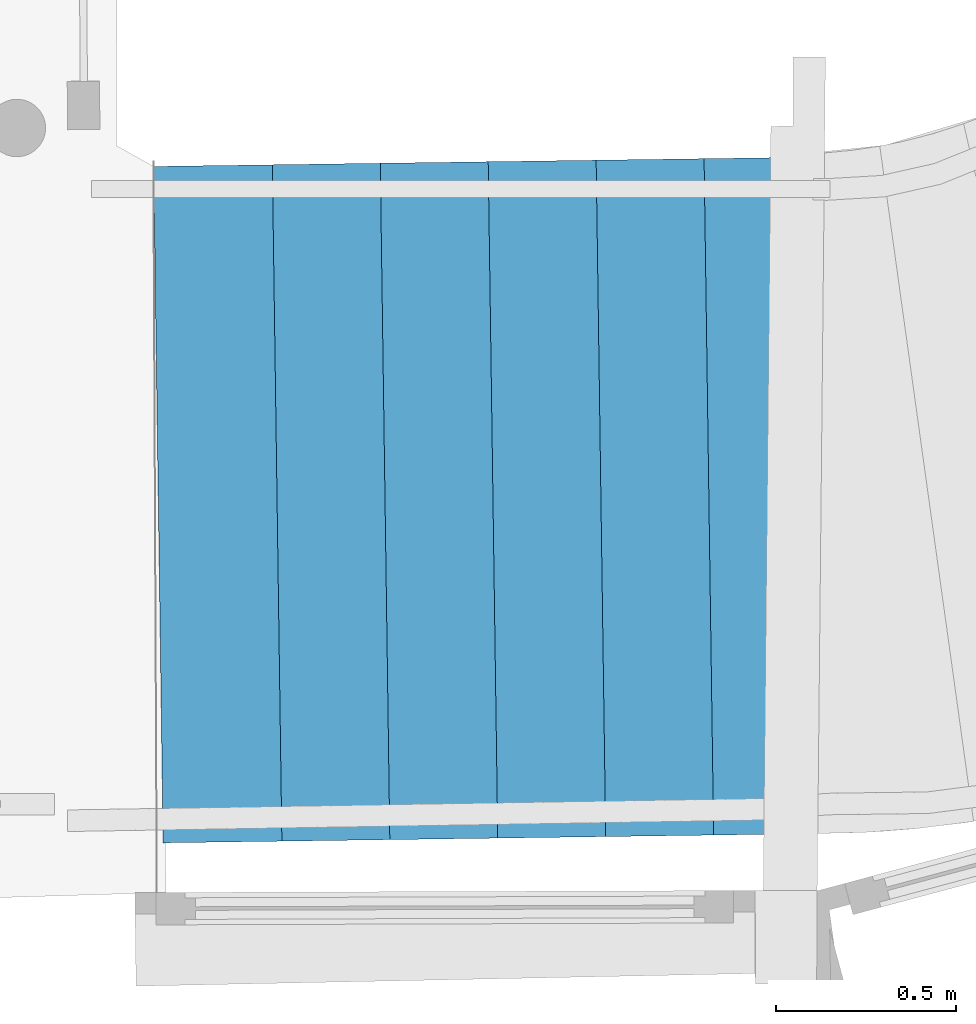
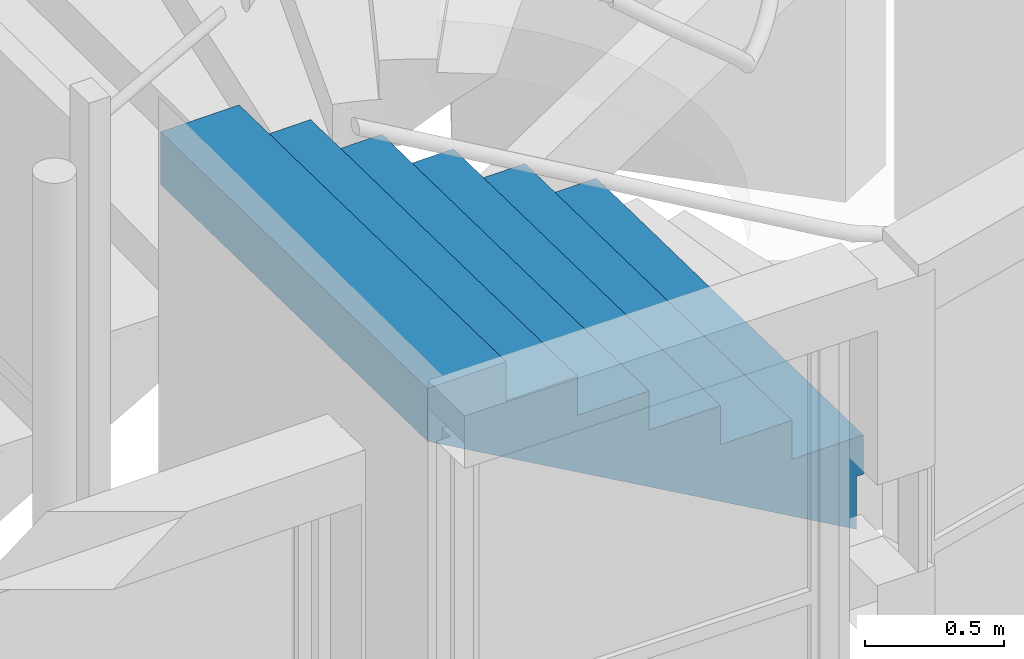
# One storey, part 52 of 66: 1 stair flight, 1 element without a shape of its own.
"""IFC2X3 building model written with IfcOpenShell, lengths in centimetres."""

from ifc_helpers import new_model, entity, si_unit, converted_unit, direction, frame, origin, origin_with_axes, place, context, subcontext, project, spatial, faceted_brep, material, material_list, element, aggregate, save


model = new_model("IFC2X3")

# Units and contexts
model_context = context("Model", 3, precision=0.0001, world=origin(), true_north=direction((0.225632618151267, 0.974212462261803, 0.0)))
body_context = subcontext(model_context, "Body", "Model", "MODEL_VIEW")
ifc_project = project(units=[si_unit("LENGTHUNIT", "METRE", prefix="CENTI"), si_unit("AREAUNIT", "SQUARE_METRE", prefix="CENTI"), si_unit("VOLUMEUNIT", "CUBIC_METRE", prefix="CENTI"), converted_unit("PLANEANGLEUNIT", "DEGREE", entity("IfcRatioMeasure", 0.0174532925), si_unit("PLANEANGLEUNIT", "RADIAN"), dimensions=[0, 0, 0, 0, 0, 0, 0])], contexts=[model_context])

# Site, building, storey
site_placement = place(None, origin_with_axes())
site = spatial("IfcSite", under=ifc_project, at=site_placement, Name="Default Site", CompositionType="ELEMENT")
building_placement = place(site_placement, origin_with_axes())
building = spatial("IfcBuilding", under=site, at=building_placement, Name="Default Building", CompositionType="ELEMENT")
storey_placement = place(building_placement, frame((0.0, 0.0, 477.795358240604), z_axis=(0.0, 0.0, 1.0), x_axis=(1.0, 0.0, 0.0)))
storey = spatial("IfcBuildingStorey", under=building, at=storey_placement, Name="Niveau 1", CompositionType="ELEMENT", Elevation=477.795358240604)

# Stair, stair flight
stair_placement = place(storey_placement, frame((1122.50922468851, -332.022076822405, 0.0), z_axis=(0.0, 0.0, 1.0), x_axis=(1.0, 0.0, 0.0)))
stair = element("IfcStair", 1, at=stair_placement, inside=storey, Name="Escalier 724676", ShapeType="NOTDEFINED")
ifc_material_1 = material(Name="Blanc")
ifc_material_2 = material(Name="Carreau décoré (85)")
ifc_material_list = material_list([ifc_material_1, ifc_material_2])
stair_flight_placement = place(stair_placement, frame((181.824080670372, -524.29506184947, 272.356419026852), z_axis=(0.0, 0.0, 1.0), x_axis=(-0.999900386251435, -0.014114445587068, 0.0)))
stair_flight = element("IfcStairFlight", 2, at=stair_flight_placement, material=ifc_material_list, Name="4294967281", context=body_context, shape_type="Brep", body=[
    faceted_brep([(-2.99998603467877, -1.77635683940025e-13, -14.2097949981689), (0.0, 0.0, -14.2097949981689), (0.00227692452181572, -187.999983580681, -14.2097949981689), (-2.99770978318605, -188.000031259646, -14.2097949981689), (0.0, 0.0, 0.0), (-2.99998603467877, -1.77635683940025e-13, 0.0), (-2.99770978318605, -188.000031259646, 0.0), (0.00227692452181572, -187.999983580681, 0.0), (-2.99770976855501, -188.000031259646, -14.2097949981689), (-2.99998604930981, -3.5478535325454e-13, 0.0), (-2.99998603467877, -6.49613686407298e-10, -14.2097949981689), (-1.4062817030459e-19, 6.49436050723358e-10, 0.0), (-4.13092805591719e-08, -5.0031823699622e-13, -14.2097949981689), (0.00227696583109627, -187.99998358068, 0.0), (0.0022769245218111, -187.99998358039, -14.2097949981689), (-2.99770978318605, -188.000031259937, 0.0)], [[[0, 1, 2]], [[2, 3, 0]], [[4, 5, 6]], [[6, 7, 4]], [[5, 0, 8]], [[3, 6, 9]], [[4, 1, 10]], [[0, 5, 11]], [[7, 2, 12]], [[1, 4, 13]], [[6, 3, 14]], [[2, 7, 15]]]),
    faceted_brep([(27.0000690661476, 0.000283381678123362, 2.99997329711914), (30.0000564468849, 0.000378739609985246, 2.99997329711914), (30.002237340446, -187.999651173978, 2.99997329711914), (27.0022513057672, -187.999651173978, 2.99997329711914), (30.0000564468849, 0.000378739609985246, 17.2097682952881), (27.0000690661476, 0.000283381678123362, 17.2097682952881), (27.0022513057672, -187.999651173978, 17.2097682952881), (30.002237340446, -187.999651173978, 17.2097682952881), (27.0022513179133, -187.999651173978, 2.99997329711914), (27.0000690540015, 0.000283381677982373, 17.2097682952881), (27.0000690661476, 0.000283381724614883, 2.99997329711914), (30.0000564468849, 0.000378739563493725, 17.2097682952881), (30.000056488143, 0.00037873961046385, 2.99997329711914), (30.0022372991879, -187.999651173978, 17.2097682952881), (30.002237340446, -187.999651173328, 2.99997329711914), (27.0022513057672, -187.999651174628, 17.2097682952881)], [[[0, 1, 2]], [[2, 3, 0]], [[4, 5, 6]], [[6, 7, 4]], [[5, 0, 8]], [[3, 6, 9]], [[4, 1, 10]], [[0, 5, 11]], [[7, 2, 12]], [[1, 4, 13]], [[6, 3, 14]], [[2, 7, 15]]]),
    faceted_brep([(57.0000301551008, 0.000663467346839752, 20.2097415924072), (60.000017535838, 0.000758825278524, 20.2097415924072), (60.0022937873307, -187.999272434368, 20.2097415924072), (57.0023070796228, -187.999320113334, 20.2097415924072), (60.000017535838, 0.000758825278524, 34.4195365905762), (57.0000301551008, 0.000663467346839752, 34.4195365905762), (57.0023070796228, -187.999320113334, 34.4195365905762), (60.0022937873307, -187.999272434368, 34.4195365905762), (57.0023071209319, -187.999320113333, 20.2097415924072), (57.0000301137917, 0.000663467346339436, 34.4195365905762), (57.0000301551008, 0.000663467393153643, 20.2097415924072), (60.000017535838, 0.000758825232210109, 34.4195365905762), (60.0000175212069, 0.000758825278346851, 20.2097415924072), (60.0022938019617, -187.999272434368, 34.4195365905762), (60.0022937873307, -187.999272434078, 20.2097415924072), (57.0023070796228, -187.999320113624, 34.4195365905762)], [[[0, 1, 2]], [[2, 3, 0]], [[4, 5, 6]], [[6, 7, 4]], [[5, 0, 8]], [[3, 6, 9]], [[4, 1, 10]], [[0, 5, 11]], [[7, 2, 12]], [[1, 4, 13]], [[6, 3, 14]], [[2, 7, 15]]]),
    faceted_brep([(86.9999912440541, 0.00104355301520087, 37.4195098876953), (90.0000726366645, 0.001042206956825, 37.4195098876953), (90.0022542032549, -187.998940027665, 37.4195098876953), (87.0022681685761, -187.998940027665, 37.4195098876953), (90.0000726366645, 0.001042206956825, 51.6293048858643), (86.9999912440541, 0.00104355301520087, 51.6293048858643), (87.0022681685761, -187.998940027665, 51.6293048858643), (90.0022542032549, -187.998940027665, 51.6293048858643), (87.0022682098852, -187.998940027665, 37.4195098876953), (86.999991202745, 0.00104355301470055, 51.6293048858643), (86.9999912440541, 0.00104355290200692, 37.4195098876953), (90.0000726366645, 0.00104220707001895, 51.6293048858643), (90.0000726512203, 0.0010422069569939, 37.4195098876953), (90.0022541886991, -187.998940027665, 51.6293048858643), (90.0022542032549, -187.998940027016, 37.4195098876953), (87.0022681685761, -187.998940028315, 51.6293048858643)], [[[0, 1, 2]], [[2, 3, 0]], [[4, 5, 6]], [[6, 7, 4]], [[5, 0, 8]], [[3, 6, 9]], [[4, 1, 10]], [[0, 5, 11]], [[7, 2, 12]], [[1, 4, 13]], [[6, 3, 14]], [[2, 7, 15]]]),
    faceted_brep([(117.000047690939, 0.00142229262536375, 54.6292781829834), (120.000033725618, 0.00142229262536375, 54.6292781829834), (120.00231065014, -187.998561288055, 54.6292781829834), (117.0022285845, -187.998607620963, 54.6292781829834), (120.000033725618, 0.00142229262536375, 68.8391208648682), (117.000047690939, 0.00142229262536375, 68.8391208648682), (117.0022285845, -187.998607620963, 68.8391208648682), (120.00231065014, -187.998561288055, 68.8391208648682), (117.002228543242, -187.998607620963, 54.6292781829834), (117.000047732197, 0.00142229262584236, 68.8391208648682), (117.000047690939, 0.00142229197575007, 54.6292781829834), (120.000033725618, 0.00142229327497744, 68.8391208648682), (120.000033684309, 0.00142229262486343, 54.6292781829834), (120.002310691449, -187.998561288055, 68.8391208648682), (120.00231065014, -187.998561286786, 54.6292781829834), (117.0022285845, -187.998607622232, 68.8391208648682)], [[[0, 1, 2]], [[2, 3, 0]], [[4, 5, 6]], [[6, 7, 4]], [[5, 0, 8]], [[3, 6, 9]], [[4, 1, 10]], [[0, 5, 11]], [[7, 2, 12]], [[1, 4, 13]], [[6, 3, 14]], [[2, 7, 15]]]),
    faceted_brep([(147.000007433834, 0.00170702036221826, 71.8390941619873), (149.999994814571, 0.00180237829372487, 71.8390941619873), (150.002271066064, -187.998228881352, 71.8390941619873), (147.002285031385, -187.998228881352, 71.8390941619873), (149.999994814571, 0.00180237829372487, 86.0488414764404), (147.000007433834, 0.00170702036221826, 86.0488414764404), (147.002285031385, -187.998228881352, 86.0488414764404), (150.002271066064, -187.998228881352, 86.0488414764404), (147.002285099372, -187.998228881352, 71.8390941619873), (147.000007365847, 0.00170702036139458, 86.0488414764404), (147.000007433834, 0.00170702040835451, 71.8390941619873), (149.999994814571, 0.00180237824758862, 86.0488414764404), (149.99999479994, 0.00180237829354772, 71.8390941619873), (150.002271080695, -187.998228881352, 86.0488414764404), (150.002271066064, -187.998228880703, 71.8390941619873), (147.002285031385, -187.998228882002, 86.0488414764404)], [[[0, 1, 2]], [[2, 3, 0]], [[4, 5, 6]], [[6, 7, 4]], [[5, 0, 8]], [[3, 6, 9]], [[4, 1, 10]], [[0, 5, 11]], [[7, 2, 12]], [[1, 4, 13]], [[6, 3, 14]], [[2, 7, 15]]]),
    faceted_brep([(0.00227692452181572, -187.999983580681, -17.2098159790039), (0.00227692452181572, -187.999983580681, 0.0), (-4.13092805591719e-08, -5.0031823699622e-13, 0.0), (0.0, 0.0, 0.0), (0.0, 0.0, -17.2098159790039), (0.00227696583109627, -187.99998358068, -17.2098159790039), (30.002237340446, -187.999651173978, 0.0), (30.002237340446, -187.999651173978, 17.2097682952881), (30.000056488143, 0.00037873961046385, 17.2097682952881), (30.0000564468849, 0.000378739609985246, 17.2097682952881), (30.0000564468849, 0.000378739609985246, 0.0), (30.0022372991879, -187.999651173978, 0.0), (60.0022937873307, -187.999272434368, 17.2097682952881), (60.0022937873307, -187.999272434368, 34.4195365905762), (60.0000175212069, 0.000758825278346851, 34.4195365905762), (60.000017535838, 0.000758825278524, 34.4195365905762), (60.000017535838, 0.000758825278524, 17.2097682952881), (60.0022938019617, -187.999272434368, 17.2097682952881), (90.0022542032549, -187.998940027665, 34.4195365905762), (90.0022542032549, -187.998940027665, 51.6293048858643), (90.0000726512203, 0.0010422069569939, 51.6293048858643), (90.0000726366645, 0.001042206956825, 51.6293048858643), (90.0000726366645, 0.001042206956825, 34.4195365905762), (90.0022541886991, -187.998940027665, 34.4195365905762), (120.00231065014, -187.998561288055, 51.6293048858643), (120.00231065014, -187.998561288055, 68.8391208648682), (120.000033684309, 0.00142229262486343, 68.8391208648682), (120.000033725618, 0.00142229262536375, 68.8391208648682), (120.000033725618, 0.00142229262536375, 51.6293048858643), (120.002310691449, -187.998561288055, 51.6293048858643), (150.002271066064, -187.998228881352, 68.8391208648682), (150.002271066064, -187.998228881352, 86.0488414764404), (149.99999479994, 0.00180237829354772, 86.0488414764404), (149.999994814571, 0.00180237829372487, 86.0488414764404), (149.999994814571, 0.00180237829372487, 68.8391208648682), (150.002271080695, -187.998228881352, 68.8391208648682), (180.002232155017, -187.997848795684, 86.0488414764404), (180.000051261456, 0.00218111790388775, 86.0488414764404), (0.00227692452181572, -187.999983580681, -37.45436668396), (-4.13092805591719e-08, -5.0031823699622e-13, -17.2098159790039), (0.0, 0.0, -37.45436668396), (0.00227696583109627, -187.99998358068, -37.45436668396), (180.002232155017, -187.997848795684, 65.8042430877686), (180.000051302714, 0.00218111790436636, 65.8042430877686), (180.000051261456, 0.00218111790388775, 65.8042430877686), (180.002232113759, -187.997848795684, 86.0488414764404), (180.002232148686, -187.997848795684, 65.8042430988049), (0.00227941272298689, -187.999983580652, -37.4543710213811), (3.08351872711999e-08, 3.73433830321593e-13, -37.4543667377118), (180.000049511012, 0.00218111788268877, 65.8042461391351), (150.002271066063, -187.99822887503, 68.8391208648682), (180.002232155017, -187.997848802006, 86.0488414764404), (30.002237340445, -187.999651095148, 9.1079487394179e-14), (0.00227692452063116, -187.999983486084, -37.4543666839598), (180.002232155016, -187.99784870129, 65.8042430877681), (60.0022937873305, -187.999272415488, 17.209768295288), (180.002232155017, -187.997848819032, 65.8042430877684), (90.0022542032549, -187.998940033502, 34.4195365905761), (180.002232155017, -187.997848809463, 65.8042430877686), (120.00231065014, -187.998561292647, 51.6293048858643), (180.002232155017, -187.997848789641, 65.8042430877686), (180.002232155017, -187.997848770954, 65.8042430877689), (150.002271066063, -187.998228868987, 68.8391208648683), (120.00231065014, -187.998561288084, 51.6293048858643), (90.0022542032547, -187.9989400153, 34.4195365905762), (60.0022937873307, -187.999272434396, 17.2097682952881), (30.0022373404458, -187.999651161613, 0.0), (30.000056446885, 0.000378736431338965, 2.38962939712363e-15), (180.000051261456, 0.00218109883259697, 65.8042430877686), (-3.59812214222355e-16, 2.85008149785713e-11, -37.45436668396), (-3.59812214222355e-16, 2.85008149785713e-11, 0.0), (30.0000564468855, 0.000378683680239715, 2.70888019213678e-13), (60.0000175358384, 0.00075878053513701, 17.2097682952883), (30.0000564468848, 0.000378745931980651, 0.0), (30.0000564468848, 0.000378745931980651, 17.2097682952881), (60.0000175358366, 0.000758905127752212, 17.2097682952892), (90.0000726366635, 0.00104226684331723, 34.419536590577), (60.0000175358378, 0.000758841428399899, 17.2097682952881), (60.0000175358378, 0.000758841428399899, 34.4195365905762), (90.0000726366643, 0.00104222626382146, 34.4195365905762), (120.000033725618, 0.00142230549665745, 51.6293048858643), (90.0000726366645, 0.0010422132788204, 34.4195365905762), (90.0000726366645, 0.0010422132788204, 51.6293048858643), (120.000033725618, 0.00142229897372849, 51.6293048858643), (120.000033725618, 0.00142229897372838, 68.8391208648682), (120.000033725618, 0.00142230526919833, 68.8391208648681), (149.999994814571, 0.00180238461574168, 68.8391208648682), (149.999994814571, 0.00180237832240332, 68.8391208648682), (149.999994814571, 0.00180237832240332, 86.0488414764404)], [[[0, 1, 2]], [[3, 4, 5]], [[6, 7, 8]], [[9, 10, 11]], [[12, 13, 14]], [[15, 16, 17]], [[18, 19, 20]], [[21, 22, 23]], [[24, 25, 26]], [[27, 28, 29]], [[30, 31, 32]], [[33, 34, 35]], [[1, 6, 10]], [[10, 3, 1]], [[7, 12, 16]], [[16, 9, 7]], [[13, 18, 22]], [[22, 15, 13]], [[19, 24, 28]], [[28, 21, 19]], [[25, 30, 34]], [[34, 27, 25]], [[31, 36, 37]], [[37, 33, 31]], [[38, 0, 39]], [[4, 40, 41]], [[36, 42, 43]], [[44, 37, 45]], [[44, 46, 47]], [[38, 48, 49]], [[36, 50, 42]], [[30, 51, 31]], [[42, 52, 53]], [[6, 54, 55]], [[12, 56, 57]], [[18, 58, 59]], [[24, 60, 25]], [[25, 61, 62]], [[19, 18, 63]], [[13, 12, 64]], [[7, 6, 65]], [[1, 38, 66]], [[40, 67, 68]], [[10, 69, 70]], [[44, 71, 72]], [[16, 73, 74]], [[44, 75, 76]], [[22, 77, 78]], [[44, 79, 80]], [[28, 81, 82]], [[44, 83, 84]], [[44, 85, 86]], [[44, 87, 37]], [[37, 87, 88]]]),
    faceted_brep([(-2.99770978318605, -188.000031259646, 2.99997329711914), (30.002237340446, -187.999651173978, 2.99997329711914), (30.0000564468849, 0.000378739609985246, 2.99997329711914), (-2.99998603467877, -1.77635683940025e-13, 2.99997329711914), (30.002237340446, -187.999651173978, 0.0), (-2.99770978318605, -188.000031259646, 0.0), (-2.99998603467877, -1.77635683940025e-13, 0.0), (30.0000564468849, 0.000378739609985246, 0.0), (-2.99998604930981, -3.5478535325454e-13, 2.99997329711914), (-2.99770976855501, -188.000031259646, 0.0), (-2.99770978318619, -188.000031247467, 2.99997329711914), (30.0022373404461, -187.999651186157, 0.0), (30.0022372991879, -187.999651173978, 2.99997329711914), (30.000056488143, 0.00037873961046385, 0.0), (30.0000564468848, 0.000378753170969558, 2.99997329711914), (-2.99998603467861, -1.35611619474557e-08, 0.0)], [[[0, 1, 2]], [[2, 3, 0]], [[4, 5, 6]], [[6, 7, 4]], [[5, 0, 8]], [[3, 6, 9]], [[4, 1, 10]], [[0, 5, 11]], [[7, 2, 12]], [[1, 4, 13]], [[6, 3, 14]], [[2, 7, 15]]]),
    faceted_brep([(27.0022513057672, -187.999651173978, 20.2097415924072), (60.0022937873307, -187.999272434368, 20.2097415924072), (60.000017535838, 0.000758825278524, 20.2097415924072), (27.0000690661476, 0.000283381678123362, 20.2097415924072), (60.0022937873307, -187.999272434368, 17.2097682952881), (27.0022513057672, -187.999651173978, 17.2097682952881), (27.0000690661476, 0.000283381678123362, 17.2097682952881), (60.000017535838, 0.000758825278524, 17.2097682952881), (27.0000690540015, 0.000283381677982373, 20.2097415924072), (27.0022513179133, -187.999651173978, 17.2097682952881), (27.0022513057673, -187.999651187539, 20.2097415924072), (60.0022937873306, -187.999272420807, 17.2097682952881), (60.0022938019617, -187.999272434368, 20.2097415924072), (60.0000175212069, 0.000758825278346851, 17.2097682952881), (60.0000175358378, 0.000758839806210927, 20.2097415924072), (27.0000690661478, 0.000283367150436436, 17.2097682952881)], [[[0, 1, 2]], [[2, 3, 0]], [[4, 5, 6]], [[6, 7, 4]], [[5, 0, 8]], [[3, 6, 9]], [[4, 1, 10]], [[0, 5, 11]], [[7, 2, 12]], [[1, 4, 13]], [[6, 3, 14]], [[2, 7, 15]]]),
    faceted_brep([(57.0023070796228, -187.999320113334, 37.4195098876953), (90.0022542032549, -187.998940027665, 37.4195098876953), (90.0000726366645, 0.001042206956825, 37.4195098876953), (57.0000301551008, 0.000663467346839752, 37.4195098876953), (90.0022542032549, -187.998940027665, 34.4195365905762), (57.0023070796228, -187.999320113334, 34.4195365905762), (57.0000301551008, 0.000663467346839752, 34.4195365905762), (90.0000726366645, 0.001042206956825, 34.4195365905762), (57.0000301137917, 0.000663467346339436, 37.4195098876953), (57.0023071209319, -187.999320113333, 34.4195365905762), (57.0023070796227, -187.999320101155, 37.4195098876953), (90.002254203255, -187.998940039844, 34.4195365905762), (90.0022541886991, -187.998940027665, 37.4195098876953), (90.0000726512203, 0.0010422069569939, 34.4195365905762), (90.0000726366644, 0.00104222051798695, 37.4195098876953), (57.000030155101, 0.000663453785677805, 34.4195365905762)], [[[0, 1, 2]], [[2, 3, 0]], [[4, 5, 6]], [[6, 7, 4]], [[5, 0, 8]], [[3, 6, 9]], [[4, 1, 10]], [[0, 5, 11]], [[7, 2, 12]], [[1, 4, 13]], [[6, 3, 14]], [[2, 7, 15]]]),
    faceted_brep([(87.0022681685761, -187.998940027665, 54.6292781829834), (120.00231065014, -187.998561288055, 54.6292781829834), (120.000033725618, 0.00142229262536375, 54.6292781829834), (86.9999912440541, 0.00104355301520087, 54.6292781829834), (120.00231065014, -187.998561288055, 51.6293048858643), (87.0022681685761, -187.998940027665, 51.6293048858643), (86.9999912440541, 0.00104355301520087, 51.6293048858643), (120.000033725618, 0.00142229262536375, 51.6293048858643), (86.999991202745, 0.00104355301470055, 54.6292781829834), (87.0022682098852, -187.998940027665, 51.6293048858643), (87.0022681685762, -187.998940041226, 54.6292781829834), (120.002310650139, -187.998561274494, 51.6293048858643), (120.002310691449, -187.998561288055, 54.6292781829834), (120.000033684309, 0.00142229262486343, 51.6293048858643), (120.000033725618, 0.00142230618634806, 54.6292781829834), (86.9999912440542, 0.00104353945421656, 51.6293048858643)], [[[0, 1, 2]], [[2, 3, 0]], [[4, 5, 6]], [[6, 7, 4]], [[5, 0, 8]], [[3, 6, 9]], [[4, 1, 10]], [[0, 5, 11]], [[7, 2, 12]], [[1, 4, 13]], [[6, 3, 14]], [[2, 7, 15]]]),
    faceted_brep([(117.0022285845, -187.998607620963, 71.8390941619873), (150.002271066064, -187.998228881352, 71.8390941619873), (149.999994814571, 0.00180237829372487, 71.8390941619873), (117.000047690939, 0.00142229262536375, 71.8390941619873), (150.002271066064, -187.998228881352, 68.8391208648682), (117.0022285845, -187.998607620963, 68.8391208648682), (117.000047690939, 0.00142229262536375, 68.8391208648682), (149.999994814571, 0.00180237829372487, 68.8391208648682), (117.000047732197, 0.00142229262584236, 71.8390941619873), (117.002228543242, -187.998607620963, 68.8391208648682), (117.0022285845, -187.998607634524, 71.8390941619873), (150.002271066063, -187.998228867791, 68.8391208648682), (150.002271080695, -187.998228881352, 71.8390941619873), (149.99999479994, 0.00180237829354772, 68.8391208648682), (149.999994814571, 0.00180236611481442, 71.8390941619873), (117.000047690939, 0.0014223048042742, 68.8391208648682)], [[[0, 1, 2]], [[2, 3, 0]], [[4, 5, 6]], [[6, 7, 4]], [[5, 0, 8]], [[3, 6, 9]], [[4, 1, 10]], [[0, 5, 11]], [[7, 2, 12]], [[1, 4, 13]], [[6, 3, 14]], [[2, 7, 15]]]),
    faceted_brep([(147.002285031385, -187.998228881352, 89.0488147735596), (180.002232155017, -187.997848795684, 89.0488147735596), (180.000051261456, 0.00218111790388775, 89.0488147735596), (147.000007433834, 0.00170702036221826, 89.0488147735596), (180.002232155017, -187.997848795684, 86.0488414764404), (147.002285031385, -187.998228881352, 86.0488414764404), (147.000007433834, 0.00170702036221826, 86.0488414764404), (180.000051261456, 0.00218111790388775, 86.0488414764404), (147.000007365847, 0.00170702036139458, 89.0488147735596), (147.002285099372, -187.998228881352, 86.0488414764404), (147.002285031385, -187.998228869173, 89.0488147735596), (180.002232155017, -187.997848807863, 86.0488414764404), (180.002232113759, -187.997848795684, 89.0488147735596), (180.000051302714, 0.00218111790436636, 86.0488414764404), (180.000051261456, 0.00218112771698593, 89.0488147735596), (147.000007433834, 0.00170701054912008, 86.0488414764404)], [[[0, 1, 2]], [[2, 3, 0]], [[4, 5, 6]], [[6, 7, 4]], [[5, 0, 8]], [[3, 6, 9]], [[4, 1, 10]], [[0, 5, 11]], [[7, 2, 12]], [[1, 4, 13]], [[6, 3, 14]], [[2, 7, 15]]]),
])
aggregate(stair, [stair_flight])

save(model, "model.ifc")
